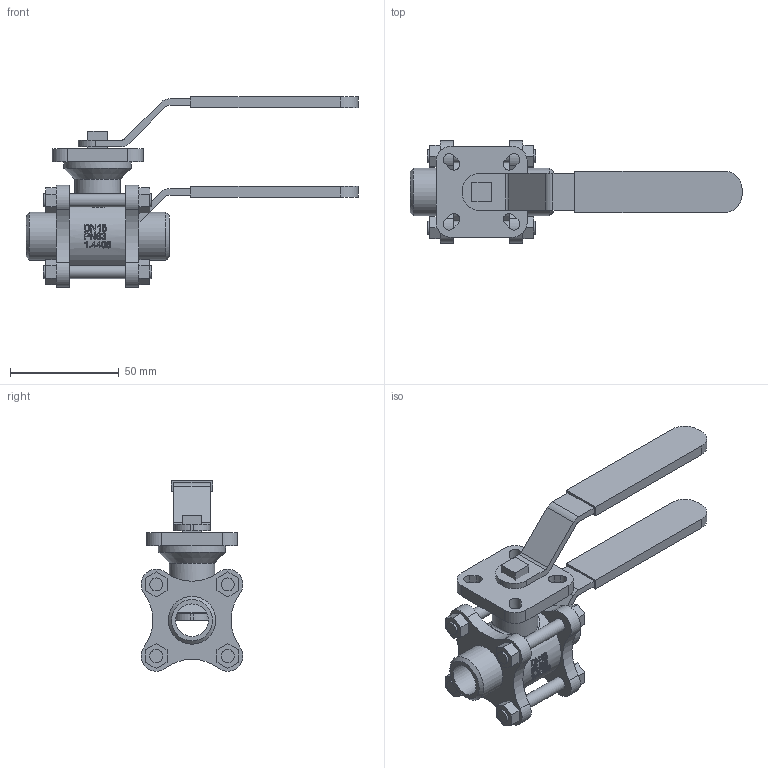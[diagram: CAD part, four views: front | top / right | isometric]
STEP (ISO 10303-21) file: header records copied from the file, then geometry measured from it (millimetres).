
FILE_DESCRIPTION( ( 'Unknown' ), '1' );
FILE_NAME( 'W:/ECCUA/ROOTSI BPS 3D vidinad/Kuulkraanid/Roostevaba kuulkraanid/Ball valve BPS 2421/Ball valve with hand lever BPS/STEP format/BPS 2421015 ball valve DN15.stp', 'Unknown', ( 'Unknown' ), ( 'Unknown' ), 'PSStep 10.1', 'Unknown', ' ' );
FILE_SCHEMA( ( 'AUTOMOTIVE_DESIGN { 1 0 10303 214 1 1 1 1 }' ) );
Length unit declared in the file: millimetre
Products named in the file (3): Assem1; Hand lever for ball valve DN8-20 BPS 2420-21; BPS 2421015 ball valve DN15
Bounding box: 153 x 46.99 x 87.8 mm (x, y, z)
Volume: 157131 mm3; surface area: 59133.6 mm2
Topology: 4 solids, 4 shells, 584 faces, 1462 edges, 970 vertices
Faces by surface type: plane 342, cylinder 154, bspline 82, cone 6
Full cylindrical faces by diameter (mm): 3 x2, 6 x24, 15 x2, 21 x2, 22 x4, 31 x2, 34 x2
Entity records: 14493 total; most frequent: CARTESIAN_POINT 5828, ORIENTED_EDGE 1392, DIRECTION 1024, EDGE_CURVE 696, VERTEX_POINT 478, EDGE_LOOP 382, AXIS2_PLACEMENT_3D 380, FACE_OUTER_BOUND 317
